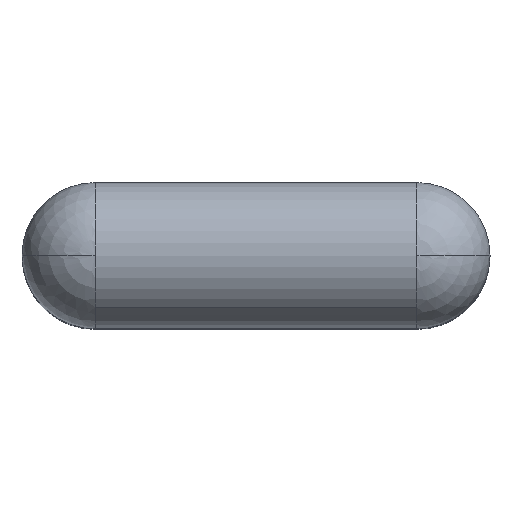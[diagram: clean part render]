
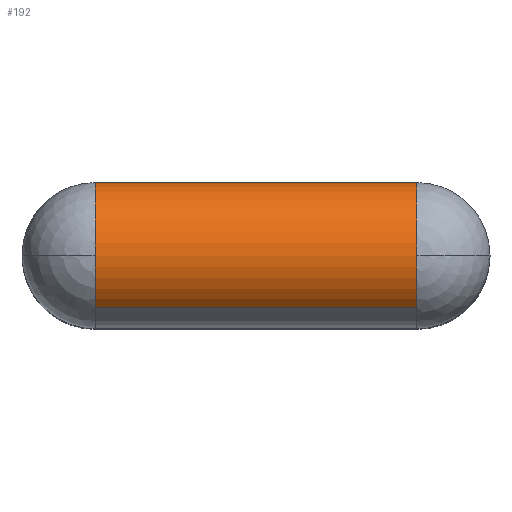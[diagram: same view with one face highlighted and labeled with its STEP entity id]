
A CAD part, top view. The second image highlights one B-rep face of the part: STEP entity #192.
In plain terms, the highlighted cylindrical face has radius 0.75 mm (diameter 1.5 mm), a partial arc.
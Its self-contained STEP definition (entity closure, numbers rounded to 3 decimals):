
#88=CARTESIAN_POINT('',(-2.85,-0.75,5.0));
#89=VERTEX_POINT('',#88);
#99=CARTESIAN_POINT('',(-2.85,0.,4.25));
#100=VERTEX_POINT('',#99);
#101=CARTESIAN_POINT('',(-2.85,-0.75,4.25));
#102=DIRECTION('',(1.0,0.0,0.0));
#103=DIRECTION('',(0.0,0.0,1.0));
#104=AXIS2_PLACEMENT_3D('',#101,#102,#103);
#105=CIRCLE('',#104,0.75);
#106=EDGE_CURVE('',#100,#89,#105,.T.);
#125=CARTESIAN_POINT('',(0.45,-0.75,5.0));
#126=VERTEX_POINT('',#125);
#134=CARTESIAN_POINT('',(0.45,0.,4.25));
#135=VERTEX_POINT('',#134);
#143=CARTESIAN_POINT('',(0.45,-0.75,4.25));
#144=DIRECTION('',(-1.0,0.0,0.0));
#145=DIRECTION('',(0.0,0.0,1.0));
#146=AXIS2_PLACEMENT_3D('',#143,#144,#145);
#147=CIRCLE('',#146,0.75);
#148=EDGE_CURVE('',#126,#135,#147,.T.);
#153=CARTESIAN_POINT('',(-0.375,-0.75,4.25));
#154=DIRECTION('',(-1.0,0.,0.0));
#155=DIRECTION('',(0.,-0.707,0.707));
#156=AXIS2_PLACEMENT_3D('',#153,#154,#155);
#157=CYLINDRICAL_SURFACE('',#156,0.75);
#158=CARTESIAN_POINT('',(0.45,-1.28,4.78));
#159=VERTEX_POINT('',#158);
#160=CARTESIAN_POINT('',(-2.85,-1.28,4.78));
#161=VERTEX_POINT('',#160);
#162=CARTESIAN_POINT('',(0.45,-1.28,4.78));
#163=DIRECTION('',(-1.0,0.0,0.0));
#164=VECTOR('',#163,3.3);
#165=LINE('',#162,#164);
#166=EDGE_CURVE('',#159,#161,#165,.T.);
#167=ORIENTED_EDGE('',*,*,#166,.F.);
#168=CARTESIAN_POINT('',(0.45,-0.75,4.25));
#169=DIRECTION('',(-1.0,0.0,0.0));
#170=DIRECTION('',(0.0,0.0,1.0));
#171=AXIS2_PLACEMENT_3D('',#168,#169,#170);
#172=CIRCLE('',#171,0.75);
#173=EDGE_CURVE('',#159,#126,#172,.T.);
#174=ORIENTED_EDGE('',*,*,#173,.T.);
#175=ORIENTED_EDGE('',*,*,#148,.T.);
#176=CARTESIAN_POINT('',(0.45,0.,4.25));
#177=DIRECTION('',(-1.0,0.0,0.0));
#178=VECTOR('',#177,3.3);
#179=LINE('',#176,#178);
#180=EDGE_CURVE('',#135,#100,#179,.T.);
#181=ORIENTED_EDGE('',*,*,#180,.T.);
#182=ORIENTED_EDGE('',*,*,#106,.T.);
#183=CARTESIAN_POINT('',(-2.85,-0.75,4.25));
#184=DIRECTION('',(1.0,0.0,0.0));
#185=DIRECTION('',(0.0,0.0,1.0));
#186=AXIS2_PLACEMENT_3D('',#183,#184,#185);
#187=CIRCLE('',#186,0.75);
#188=EDGE_CURVE('',#89,#161,#187,.T.);
#189=ORIENTED_EDGE('',*,*,#188,.T.);
#190=EDGE_LOOP('',(#167,#174,#175,#181,#182,#189));
#191=FACE_OUTER_BOUND('',#190,.T.);
#192=ADVANCED_FACE('',(#191),#157,.T.);
